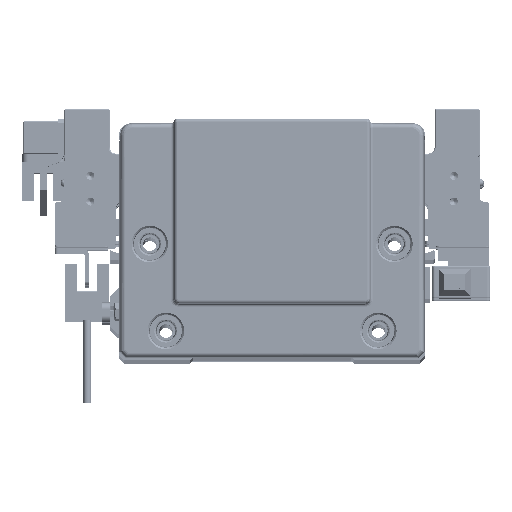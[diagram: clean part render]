
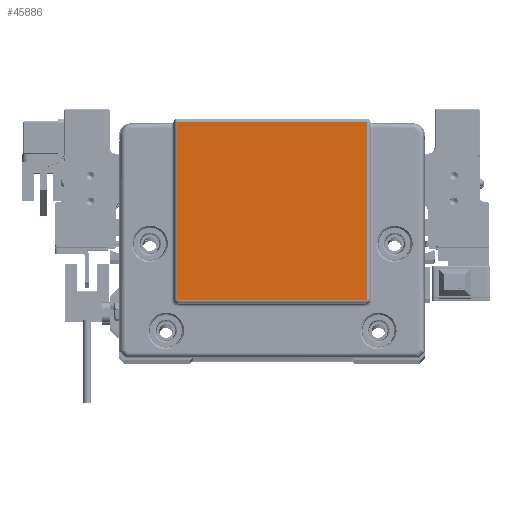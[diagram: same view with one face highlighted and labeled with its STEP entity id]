
A CAD part, top view. The second image highlights one B-rep face of the part: STEP entity #45886.
In plain terms, the highlighted planar face has unit normal (0, 0, 1) as drawn and (0, 0, -1) by its records, which use the part's own axes.
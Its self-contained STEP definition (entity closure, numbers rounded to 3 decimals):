
#247 = VERTEX_POINT ( 'NONE', #19581 ) ;
#1036 = CARTESIAN_POINT ( 'NONE',  ( 29.435, -18.732, -2. ) ) ;
#1119 = EDGE_CURVE ( 'NONE', #20554, #12197, #60793, .T. ) ;
#4027 = CARTESIAN_POINT ( 'NONE',  ( -29.133, -19.192, -2. ) ) ;
#4428 = CARTESIAN_POINT ( 'NONE',  ( -29.289, -19.086, -2. ) ) ;
#4823 = CARTESIAN_POINT ( 'NONE',  ( -29.292, -19.083, -2. ) ) ;
#5664 = EDGE_CURVE ( 'NONE', #20554, #26801, #40532, .T. ) ;
#5827 = CARTESIAN_POINT ( 'NONE',  ( 29.435, 0., -2. ) ) ;
#6623 = DIRECTION ( 'NONE',  ( 0., -1., 0. ) ) ;
#8344 = VECTOR ( 'NONE', #16861, 1000. ) ;
#9239 = CARTESIAN_POINT ( 'NONE',  ( -29.209, -19.151, -2. ) ) ;
#9515 = CARTESIAN_POINT ( 'NONE',  ( 29.247, -19.124, -2. ) ) ;
#10415 = CARTESIAN_POINT ( 'NONE',  ( -29.282, -19.093, -2. ) ) ;
#11082 = CARTESIAN_POINT ( 'NONE',  ( 29.279, -19.096, -2. ) ) ;
#11480 = CARTESIAN_POINT ( 'NONE',  ( 29.397, -18.923, -2. ) ) ;
#12197 = VERTEX_POINT ( 'NONE', #36905 ) ;
#12214 = FACE_OUTER_BOUND ( 'NONE', #21080, .T. ) ;
#13284 = EDGE_CURVE ( 'NONE', #26801, #56638, #50101, .T. ) ;
#14029 = LINE ( 'NONE', #56918, #25461 ) ;
#16029 = CARTESIAN_POINT ( 'NONE',  ( -29.36, -18.998, -2. ) ) ;
#16861 = DIRECTION ( 'NONE',  ( 0., 1., 0. ) ) ;
#17096 = CARTESIAN_POINT ( 'NONE',  ( 29.427, -18.849, -2. ) ) ;
#19581 = CARTESIAN_POINT ( 'NONE',  ( 28.935, -19.232, -2. ) ) ;
#20554 = VERTEX_POINT ( 'NONE', #45903 ) ;
#21080 = EDGE_LOOP ( 'NONE', ( #59697, #31975, #62584, #59180, #40173, #40940 ) ) ;
#22832 = CARTESIAN_POINT ( 'NONE',  ( -29.294, -19.08, -2. ) ) ;
#23100 = CARTESIAN_POINT ( 'NONE',  ( 29.286, -19.089, -2. ) ) ;
#23495 = CARTESIAN_POINT ( 'NONE',  ( 29.435, -18.785, -2. ) ) ;
#23903 = CARTESIAN_POINT ( 'NONE',  ( 29.296, -19.079, -2. ) ) ;
#24484 = CARTESIAN_POINT ( 'NONE',  ( 0., 36.185, -2. ) ) ;
#25461 = VECTOR ( 'NONE', #37306, 1000. ) ;
#25693 = CARTESIAN_POINT ( 'NONE',  ( -29.435, -18.732, -2. ) ) ;
#25789 = AXIS2_PLACEMENT_3D ( 'NONE', #31024, #67537, #73942 ) ;
#26801 = VERTEX_POINT ( 'NONE', #78854 ) ;
#27535 = CARTESIAN_POINT ( 'NONE',  ( 28.935, -19.232, -2. ) ) ;
#28435 = CARTESIAN_POINT ( 'NONE',  ( -28.988, -19.232, -2. ) ) ;
#28831 = CARTESIAN_POINT ( 'NONE',  ( -29.266, -19.109, -2. ) ) ;
#30689 = CARTESIAN_POINT ( 'NONE',  ( 29.283, -19.092, -2. ) ) ;
#31024 = CARTESIAN_POINT ( 'NONE',  ( 0., 0., -2. ) ) ;
#31975 = ORIENTED_EDGE ( 'NONE', *, *, #13284, .T. ) ;
#34061 = CARTESIAN_POINT ( 'NONE',  ( -29.421, -18.866, -2. ) ) ;
#34450 = CARTESIAN_POINT ( 'NONE',  ( -29.169, -19.175, -2. ) ) ;
#34639 = VECTOR ( 'NONE', #6623, 1000. ) ;
#34844 = CARTESIAN_POINT ( 'NONE',  ( -29.308, -19.065, -2. ) ) ;
#36724 = CARTESIAN_POINT ( 'NONE',  ( 29.372, -18.977, -2. ) ) ;
#36905 = CARTESIAN_POINT ( 'NONE',  ( -28.935, -19.232, -2. ) ) ;
#37306 = DIRECTION ( 'NONE',  ( -1., 0., 0. ) ) ;
#39712 = CARTESIAN_POINT ( 'NONE',  ( -29.126, -19.195, -2. ) ) ;
#39982 = CARTESIAN_POINT ( 'NONE',  ( 29.201, -19.157, -2. ) ) ;
#40173 = ORIENTED_EDGE ( 'NONE', *, *, #69172, .T. ) ;
#40532 = LINE ( 'NONE', #64979, #8344 ) ;
#40940 = ORIENTED_EDGE ( 'NONE', *, *, #1119, .F. ) ;
#41543 = CARTESIAN_POINT ( 'NONE',  ( 29.435, -18.732, -2. ) ) ;
#42334 = CARTESIAN_POINT ( 'NONE',  ( 29.391, -18.939, -2. ) ) ;
#44398 = VERTEX_POINT ( 'NONE', #1036 ) ;
#45859 = EDGE_CURVE ( 'NONE', #56638, #44398, #78365, .T. ) ;
#45886 = ADVANCED_FACE ( 'NONE', ( #12214 ), #49472, .T. ) ;
#45903 = CARTESIAN_POINT ( 'NONE',  ( -29.435, -18.732, -2. ) ) ;
#46084 = CARTESIAN_POINT ( 'NONE',  ( -29.151, -19.183, -2. ) ) ;
#46472 = CARTESIAN_POINT ( 'NONE',  ( -29.18, -19.169, -2. ) ) ;
#47547 = CARTESIAN_POINT ( 'NONE',  ( 29.268, -19.105, -2. ) ) ;
#48348 = CARTESIAN_POINT ( 'NONE',  ( 29.343, -19.023, -2. ) ) ;
#49135 = CARTESIAN_POINT ( 'NONE',  ( 29.378, -18.966, -2. ) ) ;
#49321 = DIRECTION ( 'NONE',  ( 1., 0., 0. ) ) ;
#49472 = PLANE ( 'NONE',  #25789 ) ;
#50101 = LINE ( 'NONE', #24484, #69961 ) ;
#51995 = CARTESIAN_POINT ( 'NONE',  ( 29.003, -19.232, -2. ) ) ;
#52114 = CARTESIAN_POINT ( 'NONE',  ( -29.142, -19.188, -2. ) ) ;
#52884 = CARTESIAN_POINT ( 'NONE',  ( -28.935, -19.232, -2. ) ) ;
#53289 = CARTESIAN_POINT ( 'NONE',  ( -29.226, -19.14, -2. ) ) ;
#53682 = CARTESIAN_POINT ( 'NONE',  ( -29.326, -19.044, -2. ) ) ;
#55539 = CARTESIAN_POINT ( 'NONE',  ( 29.354, -19.006, -2. ) ) ;
#56616 = B_SPLINE_CURVE_WITH_KNOTS ( 'NONE', 3,
 ( #27535, #51995, #76462, #70422, #39982, #9515, #47547, #11082, #30689, #23100, #60365, #23903, #78827, #48348, #55539, #36724, #49135, #60767, #42334, #73199, #11480, #72003, #17096, #23495, #41543 ),
 .UNSPECIFIED., .F., .F.,
 ( 4, 2, 1, 1, 1, 1, 2, 2, 2, 2, 2, 1, 2, 2, 4 ),
 ( 0., 0.25, 0.375, 0.438, 0.469, 0.484, 0.492, 0.5, 0.625, 0.688, 0.719, 0.734, 0.742, 0.75, 1. ),
 .UNSPECIFIED. ) ;
#56638 = VERTEX_POINT ( 'NONE', #67826 ) ;
#56918 = CARTESIAN_POINT ( 'NONE',  ( 0., -19.232, -2. ) ) ;
#58901 = CARTESIAN_POINT ( 'NONE',  ( -29.051, -19.224, -2. ) ) ;
#59180 = ORIENTED_EDGE ( 'NONE', *, *, #73086, .F. ) ;
#59291 = CARTESIAN_POINT ( 'NONE',  ( -29.299, -19.076, -2. ) ) ;
#59697 = ORIENTED_EDGE ( 'NONE', *, *, #5664, .T. ) ;
#60365 = CARTESIAN_POINT ( 'NONE',  ( 29.288, -19.086, -2. ) ) ;
#60767 = CARTESIAN_POINT ( 'NONE',  ( 29.386, -18.948, -2. ) ) ;
#60793 = B_SPLINE_CURVE_WITH_KNOTS ( 'NONE', 3,
 ( #25693, #76580, #34061, #65323, #16029, #53682, #34844, #59291, #22832, #4823, #4428, #10415, #28831, #53289, #9239, #46472, #34450, #46084, #52114, #4027, #39712, #70544, #58901, #28435, #52884 ),
 .UNSPECIFIED., .F., .F.,
 ( 4, 2, 1, 1, 1, 1, 2, 2, 2, 2, 2, 1, 2, 2, 4 ),
 ( 0., 0.25, 0.375, 0.437, 0.469, 0.484, 0.492, 0.5, 0.625, 0.687, 0.719, 0.734, 0.742, 0.75, 1. ),
 .UNSPECIFIED. ) ;
#62584 = ORIENTED_EDGE ( 'NONE', *, *, #45859, .T. ) ;
#64979 = CARTESIAN_POINT ( 'NONE',  ( -29.435, 0., -2. ) ) ;
#65323 = CARTESIAN_POINT ( 'NONE',  ( -29.383, -18.956, -2. ) ) ;
#67537 = DIRECTION ( 'NONE',  ( 0., 0., -1. ) ) ;
#67826 = CARTESIAN_POINT ( 'NONE',  ( 29.435, 36.185, -2. ) ) ;
#69172 = EDGE_CURVE ( 'NONE', #247, #12197, #14029, .T. ) ;
#69961 = VECTOR ( 'NONE', #49321, 1000. ) ;
#70422 = CARTESIAN_POINT ( 'NONE',  ( 29.158, -19.18, -2. ) ) ;
#70544 = CARTESIAN_POINT ( 'NONE',  ( -29.121, -19.196, -2. ) ) ;
#72003 = CARTESIAN_POINT ( 'NONE',  ( 29.399, -18.919, -2. ) ) ;
#73086 = EDGE_CURVE ( 'NONE', #247, #44398, #56616, .T. ) ;
#73199 = CARTESIAN_POINT ( 'NONE',  ( 29.395, -18.93, -2. ) ) ;
#73942 = DIRECTION ( 'NONE',  ( -1., 0., 0. ) ) ;
#76462 = CARTESIAN_POINT ( 'NONE',  ( 29.069, -19.218, -2. ) ) ;
#76580 = CARTESIAN_POINT ( 'NONE',  ( -29.435, -18.801, -2. ) ) ;
#78365 = LINE ( 'NONE', #5827, #34639 ) ;
#78827 = CARTESIAN_POINT ( 'NONE',  ( 29.312, -19.063, -2. ) ) ;
#78854 = CARTESIAN_POINT ( 'NONE',  ( -29.435, 36.185, -2. ) ) ;
